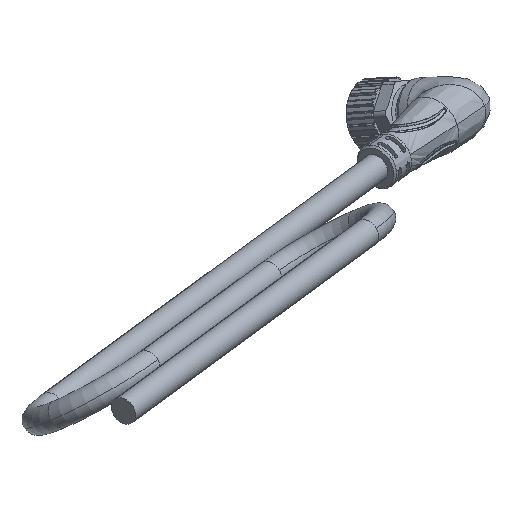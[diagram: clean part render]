
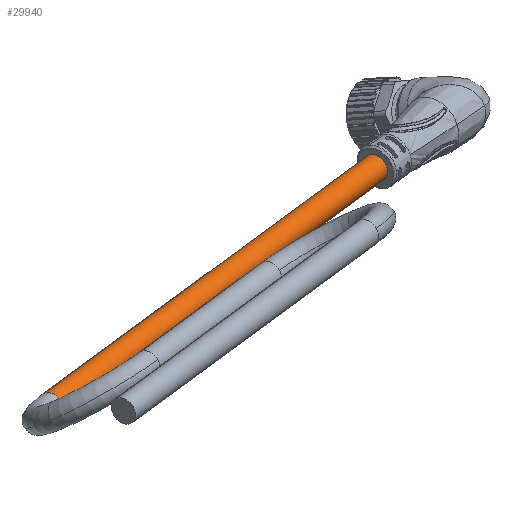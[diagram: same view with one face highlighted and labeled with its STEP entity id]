
A CAD part, isometric view. The second image highlights one B-rep face of the part: STEP entity #29940.
In plain terms, the highlighted cylindrical face has radius 2 mm (diameter 4 mm), a partial arc.
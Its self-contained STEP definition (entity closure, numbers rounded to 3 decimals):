
#681 = ORIENTED_EDGE ( 'NONE', *, *, #8874, .T. ) ;
#3983 = DIRECTION ( 'NONE',  ( 0., 0., -1. ) ) ;
#4680 = DIRECTION ( 'NONE',  ( -1., 0., 0. ) ) ;
#4944 = EDGE_CURVE ( 'NONE', #37769, #13308, #36447, .T. ) ;
#6800 = CARTESIAN_POINT ( 'NONE',  ( 0., 40., -90. ) ) ;
#7319 = AXIS2_PLACEMENT_3D ( 'NONE', #39573, #9796, #10020 ) ;
#7939 = FACE_OUTER_BOUND ( 'NONE', #14438, .T. ) ;
#8674 = EDGE_CURVE ( 'NONE', #42408, #37769, #38923, .T. ) ;
#8874 = EDGE_CURVE ( 'NONE', #40714, #10961, #24673, .T. ) ;
#9306 = AXIS2_PLACEMENT_3D ( 'NONE', #34021, #30558, #4680 ) ;
#9459 = CARTESIAN_POINT ( 'NONE',  ( 0., 38., 0. ) ) ;
#9796 = DIRECTION ( 'NONE',  ( 0., 0., -1. ) ) ;
#10020 = DIRECTION ( 'NONE',  ( -1., 0., 0. ) ) ;
#10961 = VERTEX_POINT ( 'NONE', #13550 ) ;
#11141 = DIRECTION ( 'NONE',  ( -1., 0., 0. ) ) ;
#12717 = LINE ( 'NONE', #39238, #22023 ) ;
#13308 = VERTEX_POINT ( 'NONE', #26639 ) ;
#13550 = CARTESIAN_POINT ( 'NONE',  ( -2., 40., 0. ) ) ;
#14438 = EDGE_LOOP ( 'NONE', ( #27754, #15236, #681, #25673, #22427 ) ) ;
#15199 = EDGE_CURVE ( 'NONE', #10961, #13308, #12717, .T. ) ;
#15236 = ORIENTED_EDGE ( 'NONE', *, *, #17295, .T. ) ;
#17295 = EDGE_CURVE ( 'NONE', #42408, #40714, #25559, .T. ) ;
#19106 = AXIS2_PLACEMENT_3D ( 'NONE', #6800, #3983, #20071 ) ;
#19902 = CARTESIAN_POINT ( 'NONE',  ( 2., 40., -90. ) ) ;
#20071 = DIRECTION ( 'NONE',  ( -1., 0., 0. ) ) ;
#22023 = VECTOR ( 'NONE', #25770, 1000. ) ;
#22427 = ORIENTED_EDGE ( 'NONE', *, *, #4944, .F. ) ;
#24673 = CIRCLE ( 'NONE', #7319, 2. ) ;
#25559 = CIRCLE ( 'NONE', #38034, 2. ) ;
#25673 = ORIENTED_EDGE ( 'NONE', *, *, #15199, .T. ) ;
#25770 = DIRECTION ( 'NONE',  ( 0., 0., -1. ) ) ;
#26639 = CARTESIAN_POINT ( 'NONE',  ( -2., 40., -90. ) ) ;
#27754 = ORIENTED_EDGE ( 'NONE', *, *, #8674, .F. ) ;
#29940 = ADVANCED_FACE ( 'NONE', ( #7939 ), #40562, .T. ) ;
#30558 = DIRECTION ( 'NONE',  ( 0., 0., -1. ) ) ;
#34021 = CARTESIAN_POINT ( 'NONE',  ( 0., 40., 0. ) ) ;
#34809 = DIRECTION ( 'NONE',  ( 0., 0., -1. ) ) ;
#35042 = CARTESIAN_POINT ( 'NONE',  ( 0., 40., 0. ) ) ;
#35834 = CARTESIAN_POINT ( 'NONE',  ( 2., 40., 0. ) ) ;
#36447 = CIRCLE ( 'NONE', #19106, 2. ) ;
#37673 = VECTOR ( 'NONE', #34809, 1000. ) ;
#37769 = VERTEX_POINT ( 'NONE', #19902 ) ;
#38034 = AXIS2_PLACEMENT_3D ( 'NONE', #35042, #40916, #11141 ) ;
#38077 = CARTESIAN_POINT ( 'NONE',  ( 2., 40., 0. ) ) ;
#38923 = LINE ( 'NONE', #38077, #37673 ) ;
#39238 = CARTESIAN_POINT ( 'NONE',  ( -2., 40., 0. ) ) ;
#39573 = CARTESIAN_POINT ( 'NONE',  ( 0., 40., 0. ) ) ;
#40562 = CYLINDRICAL_SURFACE ( 'NONE', #9306, 2. ) ;
#40714 = VERTEX_POINT ( 'NONE', #9459 ) ;
#40916 = DIRECTION ( 'NONE',  ( 0., 0., -1. ) ) ;
#42408 = VERTEX_POINT ( 'NONE', #35834 ) ;
